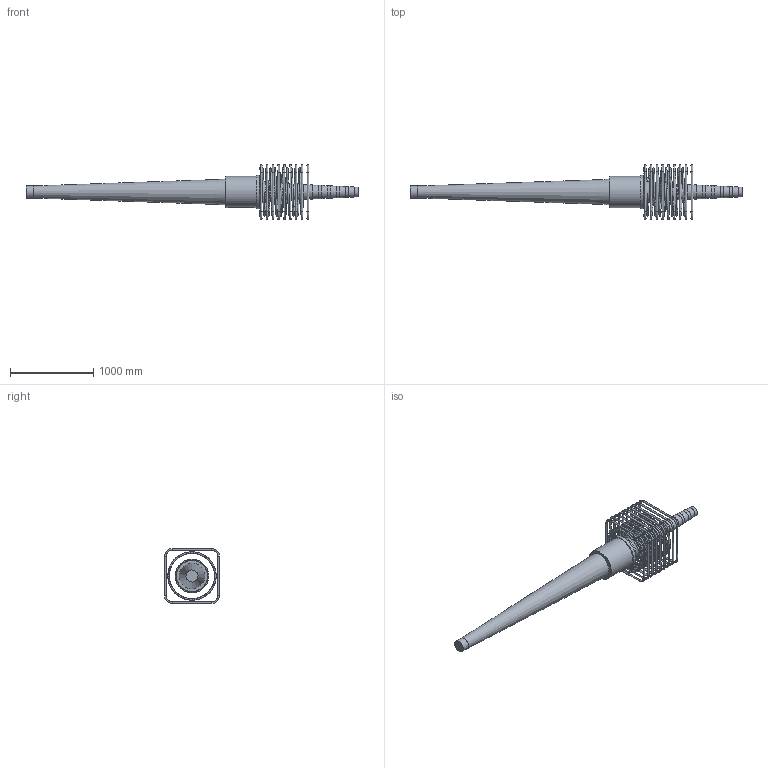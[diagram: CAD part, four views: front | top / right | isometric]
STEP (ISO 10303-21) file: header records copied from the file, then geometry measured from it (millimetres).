
FILE_DESCRIPTION(/* description */ (''),/* implementation_level */ '2;1');
FILE_NAME(/* name */ 'Z:\04 Publications\05 Give-out\BBR\6_3D_Models\BBR VT CONA CMI\BBR VT CONA CMI BT\03706\BBR VT CONA CMI BT 3706_Coupler H Assembly_CS-34,28.stp',/* time_stamp */ '2017-05-05T10:54:23+02:00',/* author */ ('IP'),/* organization */ (''),/* preprocessor_version */ 'ST-DEVELOPER v16.1',/* originating_system */ 'Autodesk Inventor 2016',/* authorisation */ '');
FILE_SCHEMA (('AUTOMOTIVE_DESIGN { 1 0 10303 214 3 1 1 }'));
Length unit declared in the file: millimetre
Products named in the file (1): BBR VT CONA CMI BT 3706_Coupler H Assembly_CS-34,28
Bounding box: 3991.46 x 660 x 660 mm (x, y, z)
Volume: 186641662.1 mm3; surface area: 5462531.5 mm2
Topology: 11 solids, 11 shells, 882 faces, 2292 edges, 1479 vertices
Faces by surface type: bspline 362, plane 305, cylinder 125, torus 76, cone 12, sphere 2
Full cylindrical faces by diameter (mm): 20 x36, 35 x1, 57 x1, 119 x1, 129 x1, 139 x1, 145 x1, 149 x1, 159 x1, 169 x1, 179 x1, 235 x1, 313 x1, 328 x1, 373 x1, 375 x1, 400 x1
Entity records: 38463 total; most frequent: CARTESIAN_POINT 19265, ORIENTED_EDGE 4302, DIRECTION 2947, EDGE_CURVE 2151, VERTEX_POINT 1470, EDGE_LOOP 1081, AXIS2_PLACEMENT_3D 1015, LINE 917
